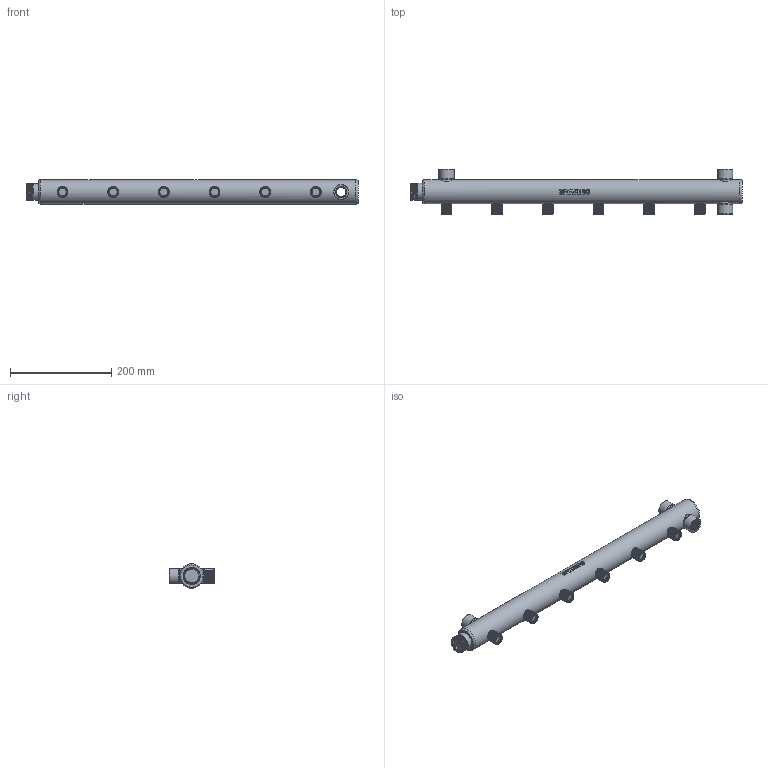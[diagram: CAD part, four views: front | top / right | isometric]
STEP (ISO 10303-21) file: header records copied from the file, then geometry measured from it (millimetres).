
FILE_DESCRIPTION(/* description */ (''),/* implementation_level */ '2;1');
FILE_NAME(/* name */ 'F:\Артём\00000\Работа удаленка\ГРВ\VTc.510.BS.060406.stp',/* time_stamp */ '2022-09-22T12:08:58+03:00',/* author */ ('almis'),/* organization */ (''),/* preprocessor_version */ 'ST-DEVELOPER v18',/* originating_system */ 'Autodesk Inventor 2020',/* authorisation */ '');
FILE_SCHEMA (('AUTOMOTIVE_DESIGN { 1 0 10303 214 3 1 1 }'));
Products named in the file (1): ГРВ-44.100
Bounding box: 655 x 89 x 48.02 mm (x, y, z)
Volume: 367929.1 mm3; surface area: 229446 mm2
Topology: 1 solids, 1 shells, 607 faces, 1663 edges, 1103 vertices
Faces by surface type: cylinder 315, plane 189, bspline 70, cone 31, torus 2
Full cylindrical faces by diameter (mm): 15.7 x10, 17.7 x72, 19 x30, 19.3 x6, 21.3 x60, 22.6 x33, 27.1 x1, 28 x5, 28.9 x6, 30 x3, 33.5 x6, 41 x1, 48 x1
Entity records: 47909 total; most frequent: CARTESIAN_POINT 34018, ORIENTED_EDGE 3326, DIRECTION 2150, EDGE_CURVE 1663, VERTEX_POINT 1103, B_SPLINE_CURVE_WITH_KNOTS 798, AXIS2_PLACEMENT_3D 747, EDGE_LOOP 662
